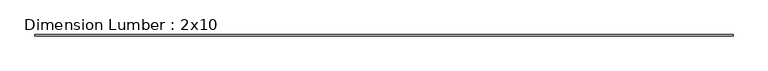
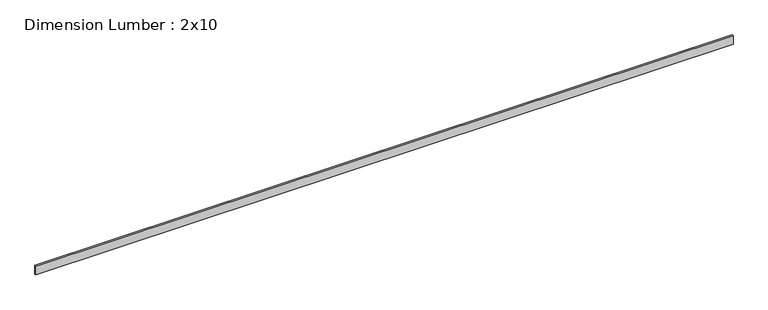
"""IFC4 building model written with IfcOpenShell, lengths in millimetres: beam geometry, Dimension Lumber : 2x10."""

from ifc_helpers import new_model, si_unit, frame, origin, place, context, project, spatial, polyline, outline, extrude, source, transform, mapped, element, save


def dimension_lumber_2x10_1dc64cbc(model_context):
    return source(origin(), model_context, "Body", "SweptSolid", [
        extrude(outline(polyline([(8782.0362128, 19.05), (8782.0362128, -19.05), (-9019.871011, -19.05), (-9019.871011, 19.05), (8782.0362128, 19.05)])), frame((0.0, 0.0, -117.475), z_axis=(0.0, 0.0, 1.0), x_axis=(1.0, 0.0, 0.0)), (0.0, 0.0, 1.0), 234.95),
    ])


if __name__ == "__main__":
    model = new_model("IFC4")
    model_context = context("Model", 3, world=origin())
    ifc_project = project(units=[si_unit("LENGTHUNIT", "METRE", prefix="MILLI")], contexts=[model_context])
    site = spatial("IfcSite", under=ifc_project)
    building = spatial("IfcBuilding", under=site)
    placement = place(None, origin())
    dimension_lumber_2x10_shape = dimension_lumber_2x10_1dc64cbc(model_context)
    element("IfcBeam", 1, ObjectType="Dimension Lumber : 2x10", at=placement, inside=building, context=model_context, shape_type="MappedRepresentation", body=[
        mapped(dimension_lumber_2x10_shape, transform((0.0, 0.0, 0.0), x_axis=(1.0, 0.0, 0.0), y_axis=(0.0, 1.0, 0.0), z_axis=(0.0, 0.0, 1.0))),
    ])
    save(model, "model.ifc")
